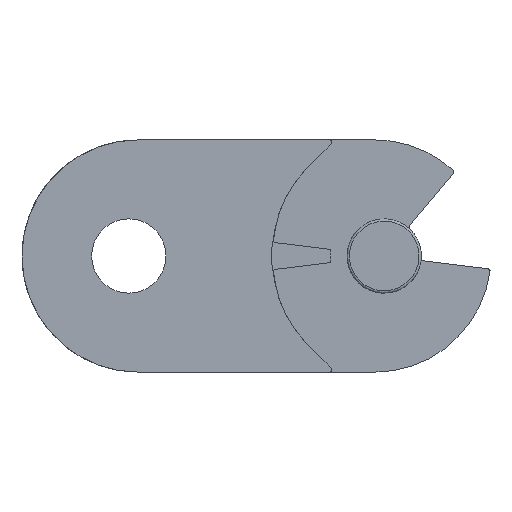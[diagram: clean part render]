
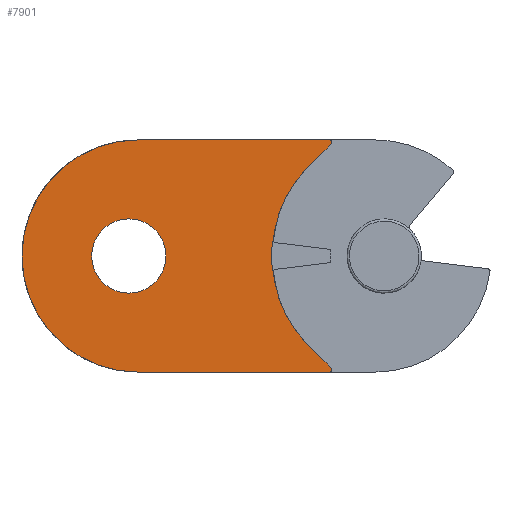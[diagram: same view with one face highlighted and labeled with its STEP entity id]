
A CAD part, left-side view. The second image highlights one B-rep face of the part: STEP entity #7901.
In plain terms, the highlighted free-form (B-spline) face has degree [1, 1] with [2, 2] control points.
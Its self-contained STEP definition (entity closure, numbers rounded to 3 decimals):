
#7793=CARTESIAN_POINT('',(-5.,19.5,25.));
#7794=VERTEX_POINT('',#7793);
#7795=CARTESIAN_POINT('',(-5.,27.5,25.));
#7796=DIRECTION('',(-1.,0.,0.));
#7797=DIRECTION('',(0.,1.,0.));
#7798=AXIS2_PLACEMENT_3D('',#7795,#7796,#7797);
#7799=CIRCLE('',#7798,8.0);
#7800=EDGE_CURVE('',#7794,#7794,#7799,.T.);
#7805=CARTESIAN_POINT('',(-5.,50.5,0.));
#7806=CARTESIAN_POINT('',(-5.,-16.23,0.));
#7807=CARTESIAN_POINT('',(-5.,50.5,50.));
#7808=CARTESIAN_POINT('',(-5.,-16.23,50.));
#7809=B_SPLINE_SURFACE_WITH_KNOTS('',1,1,((#7805,#7807),(#7806,#7808)),.UNSPECIFIED.,.F.,.F.,.U.,(2,2),(2,2),(0.0,66.73),(0.0,50.),.UNSPECIFIED.);
#7810=CARTESIAN_POINT('',(-5.,-3.907,30.54));
#7811=VERTEX_POINT('',#7810);
#7812=CARTESIAN_POINT('',(-5.,-3.907,19.46));
#7813=VERTEX_POINT('',#7812);
#7814=CARTESIAN_POINT('',(-5.,-27.5,25.));
#7815=DIRECTION('',(-1.,0.,0.));
#7816=DIRECTION('',(0.,0.974,-0.229));
#7817=AXIS2_PLACEMENT_3D('',#7814,#7815,#7816);
#7818=CIRCLE('',#7817,24.234);
#7819=EDGE_CURVE('',#7811,#7813,#7818,.T.);
#7820=ORIENTED_EDGE('',*,*,#7819,.F.);
#7821=CARTESIAN_POINT('',(-5.,-10.969,44.031));
#7822=VERTEX_POINT('',#7821);
#7823=CARTESIAN_POINT('',(-5.,-29.,26.));
#7824=DIRECTION('',(-1.,0.,0.));
#7825=DIRECTION('',(0.,1.,0.));
#7826=AXIS2_PLACEMENT_3D('',#7823,#7824,#7825);
#7827=CIRCLE('',#7826,25.5);
#7828=EDGE_CURVE('',#7822,#7811,#7827,.T.);
#7829=ORIENTED_EDGE('',*,*,#7828,.F.);
#7830=CARTESIAN_POINT('',(-5.,-16.084,49.146));
#7831=VERTEX_POINT('',#7830);
#7832=CARTESIAN_POINT('',(-5.,-16.084,49.146));
#7833=DIRECTION('',(0.,0.707,-0.707));
#7834=VECTOR('',#7833,7.234);
#7835=LINE('',#7832,#7834);
#7836=EDGE_CURVE('',#7831,#7822,#7835,.T.);
#7837=ORIENTED_EDGE('',*,*,#7836,.F.);
#7838=CARTESIAN_POINT('',(-5.,-15.73,50.));
#7839=VERTEX_POINT('',#7838);
#7840=CARTESIAN_POINT('',(-5.,-15.73,49.5));
#7841=DIRECTION('',(1.,0.,0.0));
#7842=DIRECTION('',(0.0,0.0,-1.0));
#7843=AXIS2_PLACEMENT_3D('',#7840,#7841,#7842);
#7844=CIRCLE('',#7843,0.5);
#7845=EDGE_CURVE('',#7839,#7831,#7844,.T.);
#7846=ORIENTED_EDGE('',*,*,#7845,.F.);
#7847=CARTESIAN_POINT('',(-5.,25.5,50.));
#7848=VERTEX_POINT('',#7847);
#7849=CARTESIAN_POINT('',(-5.,-15.73,50.));
#7850=DIRECTION('',(0.,1.,0.0));
#7851=VECTOR('',#7850,41.23);
#7852=LINE('',#7849,#7851);
#7853=EDGE_CURVE('',#7839,#7848,#7852,.T.);
#7854=ORIENTED_EDGE('',*,*,#7853,.T.);
#7855=CARTESIAN_POINT('',(-5.,25.5,0.));
#7856=VERTEX_POINT('',#7855);
#7857=CARTESIAN_POINT('',(-5.,25.5,25.));
#7858=DIRECTION('',(-1.,0.,0.0));
#7859=DIRECTION('',(0.0,0.0,-1.0));
#7860=AXIS2_PLACEMENT_3D('',#7857,#7858,#7859);
#7861=CIRCLE('',#7860,25.);
#7862=EDGE_CURVE('',#7848,#7856,#7861,.T.);
#7863=ORIENTED_EDGE('',*,*,#7862,.T.);
#7864=CARTESIAN_POINT('',(-5.,-15.73,0.));
#7865=VERTEX_POINT('',#7864);
#7866=CARTESIAN_POINT('',(-5.,25.5,0.));
#7867=DIRECTION('',(0.,-1.,0.0));
#7868=VECTOR('',#7867,41.23);
#7869=LINE('',#7866,#7868);
#7870=EDGE_CURVE('',#7856,#7865,#7869,.T.);
#7871=ORIENTED_EDGE('',*,*,#7870,.T.);
#7872=CARTESIAN_POINT('',(-5.,-16.084,0.854));
#7873=VERTEX_POINT('',#7872);
#7874=CARTESIAN_POINT('',(-5.,-15.73,0.5));
#7875=DIRECTION('',(1.,0.,0.));
#7876=DIRECTION('',(0.,0.707,-0.707));
#7877=AXIS2_PLACEMENT_3D('',#7874,#7875,#7876);
#7878=CIRCLE('',#7877,0.5);
#7879=EDGE_CURVE('',#7873,#7865,#7878,.T.);
#7880=ORIENTED_EDGE('',*,*,#7879,.F.);
#7881=CARTESIAN_POINT('',(-5.,-10.969,5.969));
#7882=VERTEX_POINT('',#7881);
#7883=CARTESIAN_POINT('',(-5.,-10.969,5.969));
#7884=DIRECTION('',(0.,-0.707,-0.707));
#7885=VECTOR('',#7884,7.234);
#7886=LINE('',#7883,#7885);
#7887=EDGE_CURVE('',#7882,#7873,#7886,.T.);
#7888=ORIENTED_EDGE('',*,*,#7887,.F.);
#7889=CARTESIAN_POINT('',(-5.,-29.,24.));
#7890=DIRECTION('',(-1.,0.,0.));
#7891=DIRECTION('',(0.,0.707,-0.707));
#7892=AXIS2_PLACEMENT_3D('',#7889,#7890,#7891);
#7893=CIRCLE('',#7892,25.5);
#7894=EDGE_CURVE('',#7813,#7882,#7893,.T.);
#7895=ORIENTED_EDGE('',*,*,#7894,.F.);
#7896=EDGE_LOOP('',(#7820,#7829,#7837,#7846,#7854,#7863,#7871,#7880,#7888,#7895));
#7897=FACE_OUTER_BOUND('',#7896,.T.);
#7898=ORIENTED_EDGE('',*,*,#7800,.F.);
#7899=EDGE_LOOP('',(#7898));
#7900=FACE_BOUND('',#7899,.T.);
#7901=ADVANCED_FACE('',(#7897,#7900),#7809,.T.);
